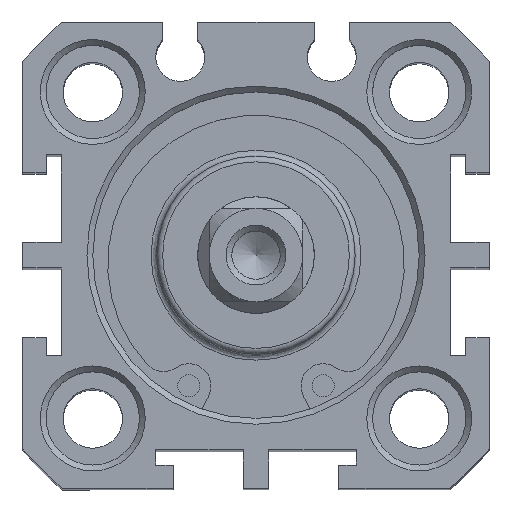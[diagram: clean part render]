
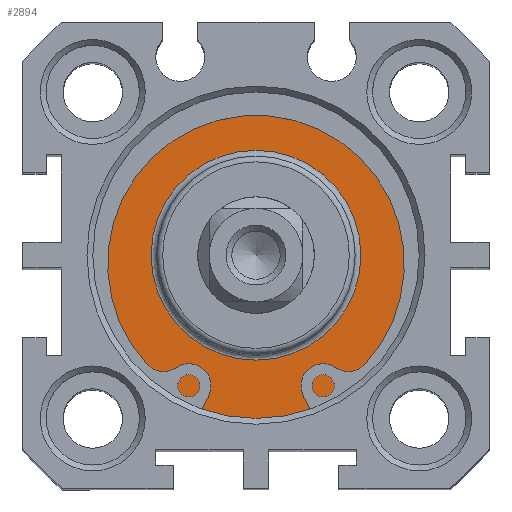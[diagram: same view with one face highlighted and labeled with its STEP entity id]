
A CAD part, top view. The second image highlights one B-rep face of the part: STEP entity #2894.
In plain terms, the highlighted planar face has unit normal (0, 0, 1).
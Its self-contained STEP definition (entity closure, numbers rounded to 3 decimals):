
#2843=CARTESIAN_POINT('',(-2.524,11.284,78.3));
#2844=VERTEX_POINT('',#2843);
#2845=CARTESIAN_POINT('',(-2.524,2.284,78.3));
#2846=DIRECTION('',(0.0,0.0,1.0));
#2847=DIRECTION('',(0.0,-1.0,0.0));
#2848=AXIS2_PLACEMENT_3D('',#2845,#2846,#2847);
#2849=CIRCLE('',#2848,9.);
#2850=EDGE_CURVE('',#2844,#2844,#2849,.T.);
#2875=CARTESIAN_POINT('',(-2.524,13.534,78.3));
#2876=DIRECTION('',(0.0,0.0,1.0));
#2877=DIRECTION('',(1.0,0.0,0.0));
#2878=AXIS2_PLACEMENT_3D('',#2875,#2876,#2877);
#2879=PLANE('',#2878);
#2880=CARTESIAN_POINT('',(-2.524,16.284,78.3));
#2881=VERTEX_POINT('',#2880);
#2882=CARTESIAN_POINT('',(-2.524,2.284,78.3));
#2883=DIRECTION('',(0.0,0.0,-1.0));
#2884=DIRECTION('',(0.0,1.0,0.0));
#2885=AXIS2_PLACEMENT_3D('',#2882,#2883,#2884);
#2886=CIRCLE('',#2885,14.);
#2887=EDGE_CURVE('',#2881,#2881,#2886,.T.);
#2888=ORIENTED_EDGE('',*,*,#2887,.F.);
#2889=EDGE_LOOP('',(#2888));
#2890=FACE_OUTER_BOUND('',#2889,.T.);
#2891=ORIENTED_EDGE('',*,*,#2850,.F.);
#2892=EDGE_LOOP('',(#2891));
#2893=FACE_BOUND('',#2892,.T.);
#2894=ADVANCED_FACE('',(#2890,#2893),#2879,.T.);
